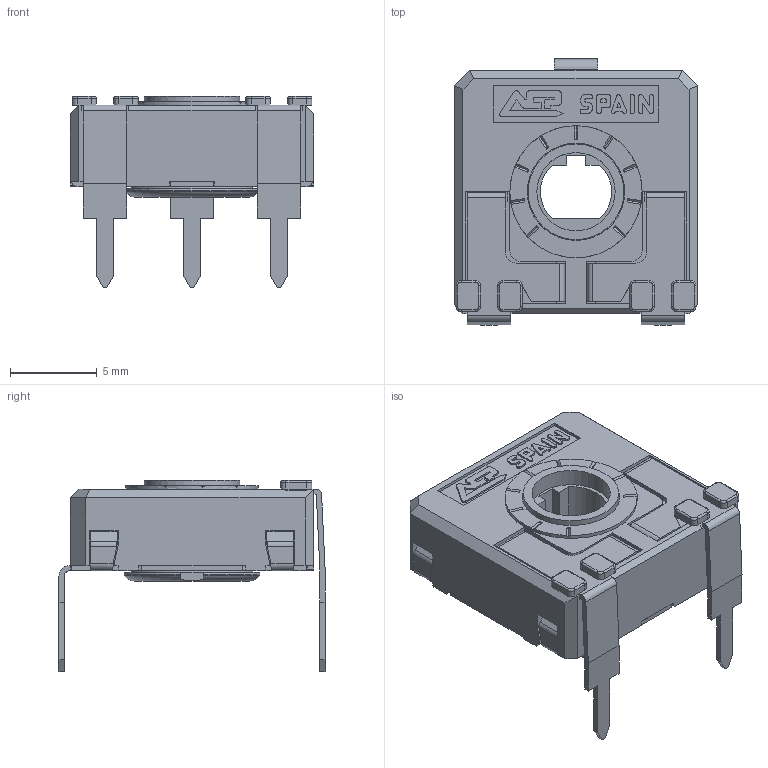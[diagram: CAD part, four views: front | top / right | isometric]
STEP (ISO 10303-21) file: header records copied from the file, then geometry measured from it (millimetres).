
FILE_DESCRIPTION(/* description */ (''),/* implementation_level */ '2;1');
FILE_NAME(/* name */ '\\SERVERACP\intercambio\Ignacio Santa Cecilia\Nueva WEB 2025\CA14 - CE14\CA14TV15.stp',/* time_stamp */ '2025-06-13T11:25:45+02:00',/* author */ ('CEM'),/* organization */ (''),/* preprocessor_version */ 'ST-DEVELOPER v17',/* originating_system */ 'Autodesk Inventor 2018',/* authorisation */ '');
FILE_SCHEMA (('AUTOMOTIVE_DESIGN { 1 0 10303 214 3 1 1 }'));
Length unit declared in the file: millimetre
Products named in the file (1): CARCASA CA14 PGA
Bounding box: 14 x 15.3 x 11 mm (x, y, z)
Volume: 533.6 mm3; surface area: 1490.7 mm2
Topology: 1 solids, 1 shells, 677 faces, 1912 edges, 1232 vertices
Faces by surface type: plane 501, cylinder 139, torus 23, bspline 8, cone 6
Full cylindrical faces by diameter (mm): 4.5 x1, 5.5 x1, 5.6 x1, 5.752 x1, 6.8 x1, 7.6 x1
Entity records: 22112 total; most frequent: CARTESIAN_POINT 4119, ORIENTED_EDGE 3824, DIRECTION 3567, EDGE_CURVE 1912, LINE 1507, VECTOR 1507, VERTEX_POINT 1232, AXIS2_PLACEMENT_3D 1030
